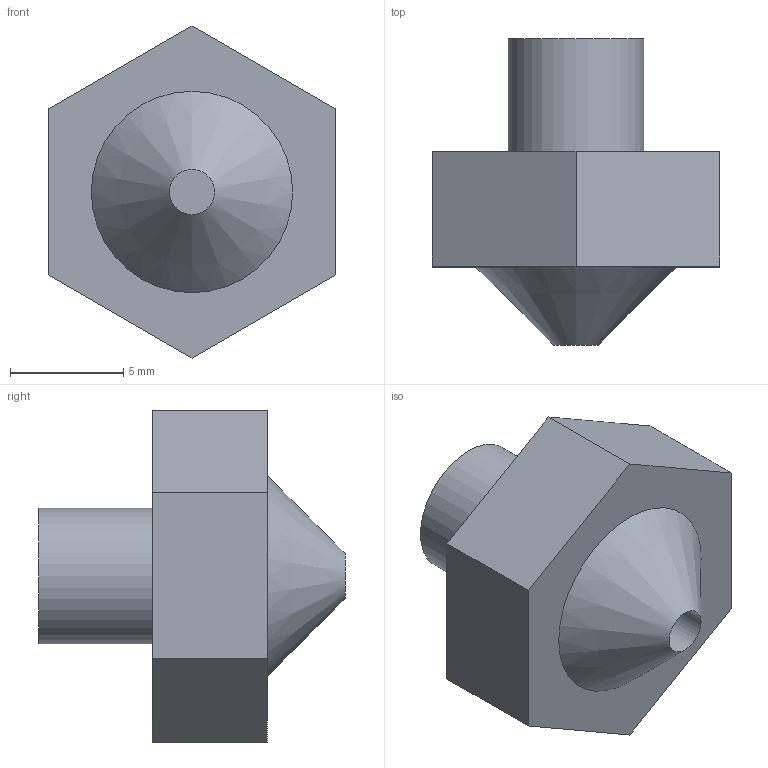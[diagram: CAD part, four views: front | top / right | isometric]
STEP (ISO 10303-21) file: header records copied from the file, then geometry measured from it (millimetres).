
FILE_DESCRIPTION(/* description */ ('STEP AP242 Edition 2','CAx-IF Rec.Pracs.---Representation and Presentation of Product Manufacturing Information (PMI)---4.0---2014-10-13','CAx-IF Rec.Pracs.---3D Tessellated Geometry---0.4---2014-09-14','2;1','CAx-IF Rec.Pracs.---User Defined Attributes---1.5---2016-08-15'),/* implementation_level */ '2;1');
FILE_NAME(/* name */ 'Assembly V2 - M6 Steel Nozzle',/* time_stamp */ '2026-02-05T22:44:39Z',/* author */ (''),/* organization */ (''),/* preprocessor_version */ 'ST-DEVELOPER v20',/* originating_system */ 'ONSHAPE BY PTC INC, 1.210',/* authorisation */ ' ');
FILE_SCHEMA (('AP242_MANAGED_MODEL_BASED_3D_ENGINEERING_MIM_LF { 1 0 10303 442 3 1 4 }'));
Length unit declared in the file: metre
Products named in the file (1): M6 Steel Nozzle
Bounding box: 12.7 x 13.53 x 14.66 mm (x, y, z)
Volume: 915.1 mm3; surface area: 675.1 mm2
Topology: 1 solids, 1 shells, 13 faces, 28 edges, 19 vertices
Faces by surface type: plane 10, cylinder 2, cone 1
Full cylindrical faces by diameter (mm): 2 x1, 6 x1
Entity records: 344 total; most frequent: DIRECTION 56, CARTESIAN_POINT 54, ORIENTED_EDGE 46, EDGE_CURVE 23, AXIS2_PLACEMENT_3D 19, LINE 18, VECTOR 18, EDGE_LOOP 18
